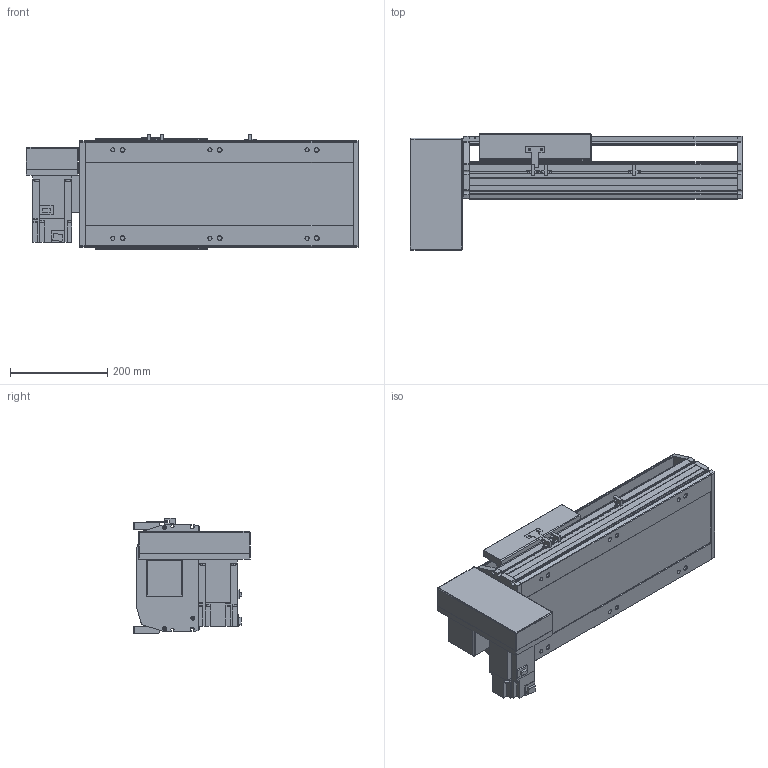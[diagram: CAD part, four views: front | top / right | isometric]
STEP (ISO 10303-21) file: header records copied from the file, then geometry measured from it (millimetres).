
FILE_DESCRIPTION(/* description */ ('STEP AP214'),/* implementation_level */ '2;1');
FILE_NAME(/* name */ 'PBS220-P40-S200-RD-T75-C1-N(0)',/* time_stamp */ '2022-06-13T02:40:32+02:00',/* author */ ('License CC BY-ND 4.0'),/* organization */ ('CADENAS'),/* preprocessor_version */ 'ST-DEVELOPER v18.102',/* originating_system */ 'PARTsolutions',/* authorisation */ ' ');
FILE_SCHEMA (('AUTOMOTIVE_DESIGN {1 0 10303 214 3 1 1}'));
Length unit declared in the file: millimetre
Products named in the file (7): PBS220-P40-S200-RD-T75-C1-N(0); PBS220_sensor; PBS220_plant; PBS220_sliser; T75-p1; PBS220T-RD_motors; PBS220-S200()_body
Assembly tree (8 placements, depth 2):
  PBS220-P40-S200-RD-T75-C1-N(0)
    PBS220_sensor  x3
    PBS220_plant
    PBS220_sliser
    T75-p1
    PBS220T-RD_motors
    PBS220-S200()_body
Bounding box: 684 x 239 x 238.5 mm (x, y, z)
Volume: 10688827.6 mm3; surface area: 1181747.1 mm2
Topology: 8 solids, 8 shells, 854 faces, 2256 edges, 1468 vertices
Faces by surface type: plane 578, cylinder 246, cone 30
Full cylindrical faces by diameter (mm): 2.013 x4, 4.5 x14, 4.917 x4, 6 x7, 6.647 x8, 8 x10, 8.376 x6, 8.5 x6, 10 x6, 14 x6, 38 x2, 40 x1, 70 x1
Entity records: 24069 total; most frequent: DIRECTION 4185, CARTESIAN_POINT 4162, ORIENTED_EDGE 3926, EDGE_CURVE 1963, AXIS2_PLACEMENT_3D 1425, VERTEX_POINT 1336, LINE 1335, VECTOR 1335
